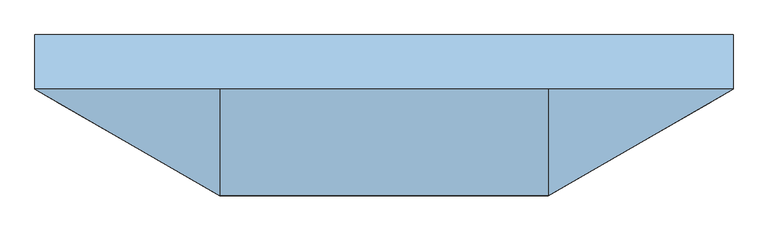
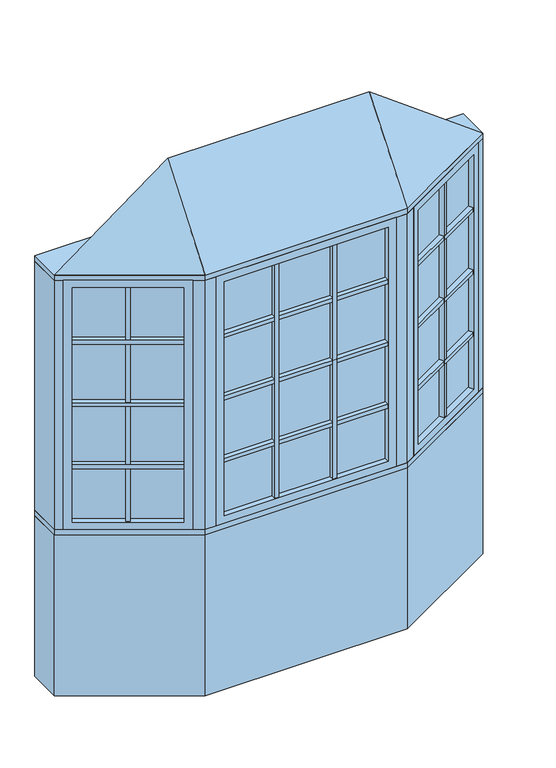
"""IFC4 building model written with IfcOpenShell, lengths in millimetres: window geometry, Pollard_Windows_Tudor Casement Bows and Bays : AML-BAY 30 AFR0612-08-500_GC."""

from ifc_helpers import new_model, si_unit, frame, origin, origin_with_axes, place, context, project, spatial, polyline, outline, extrude, faceted_brep, source, transform, mapped, element, save


def window_d4aee2c4(model_context):
    return source(origin(), model_context, "Body", "SolidModel", [
        extrude(outline(polyline([(532.2305346, -327.3537343), (521.2305346, -308.3011754), (902.1135794, -88.3982469), (913.1135794, -107.4508058), (532.2305346, -327.3537343)])), frame((0.0, 0.0, 1390.998), z_axis=(0.0, 0.0, 1.0), x_axis=(1.0, 0.0, 0.0)), (0.0, 0.0, 1.0), 18.0),
        extrude(outline(polyline([(518.6905346, -303.9017664), (507.6905346, -284.8492075), (888.5735794, -64.946279), (899.5735794, -83.9988379), (518.6905346, -303.9017664)])), frame((0.0, 0.0, 1390.998), z_axis=(0.0, 0.0, 1.0), x_axis=(1.0, 0.0, 0.0)), (0.0, 0.0, 1.0), 18.0),
        extrude(outline(polyline([(532.2305346, -327.3537343), (521.2305346, -308.3011754), (902.1135794, -88.3982469), (913.1135794, -107.4508058), (532.2305346, -327.3537343)])), frame((0.0, 0.0, 1090.998), z_axis=(0.0, 0.0, 1.0), x_axis=(1.0, 0.0, 0.0)), (0.0, 0.0, 1.0), 18.0),
        extrude(outline(polyline([(518.6905346, -303.9017664), (507.6905346, -284.8492075), (888.5735794, -64.946279), (899.5735794, -83.9988379), (518.6905346, -303.9017664)])), frame((0.0, 0.0, 1090.998), z_axis=(0.0, 0.0, 1.0), x_axis=(1.0, 0.0, 0.0)), (0.0, 0.0, 1.0), 18.0),
        extrude(outline(polyline([(532.2305346, -327.3537343), (521.2305346, -308.3011754), (902.1135794, -88.3982469), (913.1135794, -107.4508058), (532.2305346, -327.3537343)])), frame((0.0, 0.0, 1390.998), z_axis=(0.0, 0.0, 1.0), x_axis=(1.0, 0.0, 0.0)), (0.0, 0.0, 1.0), 18.0),
        extrude(outline(polyline([(518.6905346, -303.9017664), (507.6905346, -284.8492075), (888.5735794, -64.946279), (899.5735794, -83.9988379), (518.6905346, -303.9017664)])), frame((0.0, 0.0, 1390.998), z_axis=(0.0, 0.0, 1.0), x_axis=(1.0, 0.0, 0.0)), (0.0, 0.0, 1.0), 18.0),
        extrude(outline(polyline([(532.2305346, -327.3537343), (521.2305346, -308.3011754), (902.1135794, -88.3982469), (913.1135794, -107.4508058), (532.2305346, -327.3537343)])), frame((0.0, 0.0, 1390.998), z_axis=(0.0, 0.0, 1.0), x_axis=(1.0, 0.0, 0.0)), (0.0, 0.0, 1.0), 18.0),
        extrude(outline(polyline([(518.6905346, -303.9017664), (507.6905346, -284.8492075), (888.5735794, -64.946279), (899.5735794, -83.9988379), (518.6905346, -303.9017664)])), frame((0.0, 0.0, 1390.998), z_axis=(0.0, 0.0, 1.0), x_axis=(1.0, 0.0, 0.0)), (0.0, 0.0, 1.0), 18.0),
        extrude(outline(polyline([(532.2305346, -327.3537343), (521.2305346, -308.3011754), (902.1135794, -88.3982469), (913.1135794, -107.4508058), (532.2305346, -327.3537343)])), frame((0.0, 0.0, 1690.998), z_axis=(0.0, 0.0, 1.0), x_axis=(1.0, 0.0, 0.0)), (0.0, 0.0, 1.0), 18.0),
        extrude(outline(polyline([(518.6905346, -303.9017664), (507.6905346, -284.8492075), (888.5735794, -64.946279), (899.5735794, -83.9988379), (518.6905346, -303.9017664)])), frame((0.0, 0.0, 1690.998), z_axis=(0.0, 0.0, 1.0), x_axis=(1.0, 0.0, 0.0)), (0.0, 0.0, 1.0), 18.0),
        extrude(outline(polyline([(719.4662856, -193.8497112), (730.4662856, -212.9022701), (714.8778284, -221.9022701), (703.8778284, -202.8497112), (719.4662856, -193.8497112)])), frame((0.0, 0.0, 835.8628), z_axis=(0.0, 0.0, 1.0), x_axis=(1.0, 0.0, 0.0)), (0.0, 0.0, 1.0), 1128.2704),
        extrude(outline(polyline([(716.9262856, -189.4503021), (701.3378284, -198.4503021), (690.3378284, -179.3977432), (705.9262856, -170.3977432), (716.9262856, -189.4503021)])), frame((0.0, 0.0, 835.8628), z_axis=(0.0, 0.0, 1.0), x_axis=(1.0, 0.0, 0.0)), (0.0, 0.0, 1.0), 1128.2704),
        extrude(outline(polyline([(913.112102, -82.0482469), (510.2320119, -314.6511754), (507.6920119, -310.2517664), (910.572102, -77.6488379), (913.112102, -82.0482469)])), frame((0.0, 0.0, 823.1628), z_axis=(0.0, 0.0, 1.0), x_axis=(1.0, 0.0, 0.0)), (0.0, 0.0, 1.0), 1153.6704),
        faceted_brep([(902.1135794, -88.3982469, 835.8628), (914.8135794, -110.3952922, 835.8628), (914.8135794, -110.3952922, 1964.1332), (902.1135794, -88.3982469, 1964.1332), (910.572102, -77.6488379, 823.1628), (913.112102, -82.0482469, 823.1628), (913.112102, -82.0482469, 1976.8332), (910.572102, -77.6488379, 1976.8332), (886.8735794, -62.0017926, 835.8628), (899.5735794, -83.9988379, 835.8628), (899.5735794, -83.9988379, 1964.1332), (886.8735794, -62.0017926, 1964.1332), (945.8734073, -92.4628922, 799.998), (917.9334073, -44.0693926, 799.998), (917.9334073, -44.0693926, 1999.998), (945.8734073, -92.4628922, 1999.998), (533.9305346, -330.2982207, 1964.1332), (521.2305346, -308.3011754, 1964.1332), (510.2320119, -314.6511754, 1976.8332), (507.6920119, -310.2517664, 1976.8332), (518.6905346, -303.9017664, 1964.1332), (505.9905346, -281.9047211, 1964.1332), (474.9307067, -299.8371211, 1999.998), (502.8707067, -348.2306207, 1999.998), (533.9305346, -330.2982207, 835.8628), (521.2305346, -308.3011754, 835.8628), (510.2320119, -314.6511754, 823.1628), (507.6920119, -310.2517664, 823.1628), (518.6905346, -303.9017664, 835.8628), (505.9905346, -281.9047211, 835.8628), (474.9307067, -299.8371211, 799.998), (502.8707067, -348.2306207, 799.998)], [[[0, 1, 2, 3]], [[4, 5, 6, 7]], [[8, 9, 10, 11]], [[12, 13, 14, 15]], [[3, 2, 16, 17]], [[7, 6, 18, 19]], [[11, 10, 20, 21]], [[15, 14, 22, 23]], [[17, 16, 24, 25]], [[19, 18, 26, 27]], [[21, 20, 28, 29]], [[23, 22, 30, 31]], [[25, 24, 1, 0]], [[5, 26, 18, 6], [3, 17, 25, 0]], [[27, 26, 5, 4]], [[7, 19, 27, 4], [9, 28, 20, 10]], [[29, 28, 9, 8]], [[13, 30, 22, 14], [11, 21, 29, 8]], [[31, 30, 13, 12]], [[15, 23, 31, 12], [1, 24, 16, 2]]]),
        extrude(outline(polyline([(140.8016788, -347.8306207), (140.8016788, -369.8306207), (122.8016788, -369.8306207), (122.8016788, -347.8306207), (140.8016788, -347.8306207)])), frame((0.0, 0.0, 835.8628), z_axis=(0.0, 0.0, 1.0), x_axis=(1.0, 0.0, 0.0)), (0.0, 0.0, 1.0), 1128.2704),
        extrude(outline(polyline([(140.8016788, -342.7506207), (122.8016788, -342.7506207), (122.8016788, -320.7506207), (140.8016788, -320.7506207), (140.8016788, -342.7506207)])), frame((0.0, 0.0, 835.8628), z_axis=(0.0, 0.0, 1.0), x_axis=(1.0, 0.0, 0.0)), (0.0, 0.0, 1.0), 1128.2704),
        extrude(outline(polyline([(-122.8016788, -347.8306207), (-122.8016788, -369.8306207), (-140.8016788, -369.8306207), (-140.8016788, -347.8306207), (-122.8016788, -347.8306207)])), frame((0.0, 0.0, 835.8628), z_axis=(0.0, 0.0, 1.0), x_axis=(1.0, 0.0, 0.0)), (0.0, 0.0, 1.0), 1128.2704),
        extrude(outline(polyline([(-122.8016788, -342.7506207), (-140.8016788, -342.7506207), (-140.8016788, -320.7506207), (-122.8016788, -320.7506207), (-122.8016788, -342.7506207)])), frame((0.0, 0.0, 835.8628), z_axis=(0.0, 0.0, 1.0), x_axis=(1.0, 0.0, 0.0)), (0.0, 0.0, 1.0), 1128.2704),
        extrude(outline(polyline([(-373.7046365, -369.8306207), (-373.7046365, -347.8306207), (373.7046365, -347.8306207), (373.7046365, -369.8306207), (-373.7046365, -369.8306207)])), frame((0.0, 0.0, 1090.998), z_axis=(0.0, 0.0, 1.0), x_axis=(1.0, 0.0, 0.0)), (0.0, 0.0, 1.0), 18.0),
        extrude(outline(polyline([(-373.7046365, -342.7506207), (-373.7046365, -320.7506207), (373.7046365, -320.7506207), (373.7046365, -342.7506207), (-373.7046365, -342.7506207)])), frame((0.0, 0.0, 1090.998), z_axis=(0.0, 0.0, 1.0), x_axis=(1.0, 0.0, 0.0)), (0.0, 0.0, 1.0), 18.0),
        extrude(outline(polyline([(-373.7046365, -369.8306207), (-373.7046365, -347.8306207), (373.7046365, -347.8306207), (373.7046365, -369.8306207), (-373.7046365, -369.8306207)])), frame((0.0, 0.0, 1390.998), z_axis=(0.0, 0.0, 1.0), x_axis=(1.0, 0.0, 0.0)), (0.0, 0.0, 1.0), 18.0),
        extrude(outline(polyline([(-373.7046365, -342.7506207), (-373.7046365, -320.7506207), (373.7046365, -320.7506207), (373.7046365, -342.7506207), (-373.7046365, -342.7506207)])), frame((0.0, 0.0, 1390.998), z_axis=(0.0, 0.0, 1.0), x_axis=(1.0, 0.0, 0.0)), (0.0, 0.0, 1.0), 18.0),
        extrude(outline(polyline([(-373.7046365, -369.8306207), (-373.7046365, -347.8306207), (373.7046365, -347.8306207), (373.7046365, -369.8306207), (-373.7046365, -369.8306207)])), frame((0.0, 0.0, 1390.998), z_axis=(0.0, 0.0, 1.0), x_axis=(1.0, 0.0, 0.0)), (0.0, 0.0, 1.0), 18.0),
        extrude(outline(polyline([(-373.7046365, -342.7506207), (-373.7046365, -320.7506207), (373.7046365, -320.7506207), (373.7046365, -342.7506207), (-373.7046365, -342.7506207)])), frame((0.0, 0.0, 1390.998), z_axis=(0.0, 0.0, 1.0), x_axis=(1.0, 0.0, 0.0)), (0.0, 0.0, 1.0), 18.0),
        extrude(outline(polyline([(-373.7046365, -369.8306207), (-373.7046365, -347.8306207), (373.7046365, -347.8306207), (373.7046365, -369.8306207), (-373.7046365, -369.8306207)])), frame((0.0, 0.0, 1390.998), z_axis=(0.0, 0.0, 1.0), x_axis=(1.0, 0.0, 0.0)), (0.0, 0.0, 1.0), 18.0),
        extrude(outline(polyline([(-373.7046365, -342.7506207), (-373.7046365, -320.7506207), (373.7046365, -320.7506207), (373.7046365, -342.7506207), (-373.7046365, -342.7506207)])), frame((0.0, 0.0, 1390.998), z_axis=(0.0, 0.0, 1.0), x_axis=(1.0, 0.0, 0.0)), (0.0, 0.0, 1.0), 18.0),
        extrude(outline(polyline([(-913.1135794, -107.4508058), (-902.1135794, -88.3982469), (-521.2305346, -308.3011754), (-532.2305346, -327.3537343), (-913.1135794, -107.4508058)])), frame((0.0, 0.0, 1090.998), z_axis=(0.0, 0.0, 1.0), x_axis=(1.0, 0.0, 0.0)), (0.0, 0.0, 1.0), 18.0),
        extrude(outline(polyline([(-899.5735794, -83.9988379), (-888.5735794, -64.946279), (-507.6905346, -284.8492075), (-518.6905346, -303.9017664), (-899.5735794, -83.9988379)])), frame((0.0, 0.0, 1090.998), z_axis=(0.0, 0.0, 1.0), x_axis=(1.0, 0.0, 0.0)), (0.0, 0.0, 1.0), 18.0),
        extrude(outline(polyline([(-913.1135794, -107.4508058), (-902.1135794, -88.3982469), (-521.2305346, -308.3011754), (-532.2305346, -327.3537343), (-913.1135794, -107.4508058)])), frame((0.0, 0.0, 1390.998), z_axis=(0.0, 0.0, 1.0), x_axis=(1.0, 0.0, 0.0)), (0.0, 0.0, 1.0), 18.0),
        extrude(outline(polyline([(-899.5735794, -83.9988379), (-888.5735794, -64.946279), (-507.6905346, -284.8492075), (-518.6905346, -303.9017664), (-899.5735794, -83.9988379)])), frame((0.0, 0.0, 1390.998), z_axis=(0.0, 0.0, 1.0), x_axis=(1.0, 0.0, 0.0)), (0.0, 0.0, 1.0), 18.0),
        extrude(outline(polyline([(-913.1135794, -107.4508058), (-902.1135794, -88.3982469), (-521.2305346, -308.3011754), (-532.2305346, -327.3537343), (-913.1135794, -107.4508058)])), frame((0.0, 0.0, 1390.998), z_axis=(0.0, 0.0, 1.0), x_axis=(1.0, 0.0, 0.0)), (0.0, 0.0, 1.0), 18.0),
        extrude(outline(polyline([(-899.5735794, -83.9988379), (-888.5735794, -64.946279), (-507.6905346, -284.8492075), (-518.6905346, -303.9017664), (-899.5735794, -83.9988379)])), frame((0.0, 0.0, 1390.998), z_axis=(0.0, 0.0, 1.0), x_axis=(1.0, 0.0, 0.0)), (0.0, 0.0, 1.0), 18.0),
        extrude(outline(polyline([(-913.1135794, -107.4508058), (-902.1135794, -88.3982469), (-521.2305346, -308.3011754), (-532.2305346, -327.3537343), (-913.1135794, -107.4508058)])), frame((0.0, 0.0, 1390.998), z_axis=(0.0, 0.0, 1.0), x_axis=(1.0, 0.0, 0.0)), (0.0, 0.0, 1.0), 18.0),
        extrude(outline(polyline([(-899.5735794, -83.9988379), (-888.5735794, -64.946279), (-507.6905346, -284.8492075), (-518.6905346, -303.9017664), (-899.5735794, -83.9988379)])), frame((0.0, 0.0, 1390.998), z_axis=(0.0, 0.0, 1.0), x_axis=(1.0, 0.0, 0.0)), (0.0, 0.0, 1.0), 18.0),
        extrude(outline(polyline([(-913.1135794, -107.4508058), (-902.1135794, -88.3982469), (-521.2305346, -308.3011754), (-532.2305346, -327.3537343), (-913.1135794, -107.4508058)])), frame((0.0, 0.0, 1690.998), z_axis=(0.0, 0.0, 1.0), x_axis=(1.0, 0.0, 0.0)), (0.0, 0.0, 1.0), 18.0),
        extrude(outline(polyline([(-899.5735794, -83.9988379), (-888.5735794, -64.946279), (-507.6905346, -284.8492075), (-518.6905346, -303.9017664), (-899.5735794, -83.9988379)])), frame((0.0, 0.0, 1690.998), z_axis=(0.0, 0.0, 1.0), x_axis=(1.0, 0.0, 0.0)), (0.0, 0.0, 1.0), 18.0),
        extrude(outline(polyline([(-373.7046365, -369.8306207), (-373.7046365, -347.8306207), (373.7046365, -347.8306207), (373.7046365, -369.8306207), (-373.7046365, -369.8306207)])), frame((0.0, 0.0, 1690.998), z_axis=(0.0, 0.0, 1.0), x_axis=(1.0, 0.0, 0.0)), (0.0, 0.0, 1.0), 18.0),
        extrude(outline(polyline([(-373.7046365, -342.7506207), (-373.7046365, -320.7506207), (373.7046365, -320.7506207), (373.7046365, -342.7506207), (-373.7046365, -342.7506207)])), frame((0.0, 0.0, 1690.998), z_axis=(0.0, 0.0, 1.0), x_axis=(1.0, 0.0, 0.0)), (0.0, 0.0, 1.0), 18.0),
        extrude(outline(polyline([(-703.8778284, -202.8497112), (-714.8778284, -221.9022701), (-730.4662856, -212.9022701), (-719.4662856, -193.8497112), (-703.8778284, -202.8497112)])), frame((0.0, 0.0, 835.8628), z_axis=(0.0, 0.0, 1.0), x_axis=(1.0, 0.0, 0.0)), (0.0, 0.0, 1.0), 1128.2704),
        extrude(outline(polyline([(-701.3378284, -198.4503021), (-716.9262856, -189.4503021), (-705.9262856, -170.3977432), (-690.3378284, -179.3977432), (-701.3378284, -198.4503021)])), frame((0.0, 0.0, 835.8628), z_axis=(0.0, 0.0, 1.0), x_axis=(1.0, 0.0, 0.0)), (0.0, 0.0, 1.0), 1128.2704),
        extrude(outline(polyline([(-510.2320119, -314.6511754), (-913.112102, -82.0482469), (-910.572102, -77.6488379), (-507.6920119, -310.2517664), (-510.2320119, -314.6511754)])), frame((0.0, 0.0, 823.1628), z_axis=(0.0, 0.0, 1.0), x_axis=(1.0, 0.0, 0.0)), (0.0, 0.0, 1.0), 1153.6704),
        faceted_brep([(-518.6905346, -303.9017664, 1964.1332), (-505.9905346, -281.9047211, 1964.1332), (-505.9905346, -281.9047211, 835.8628), (-518.6905346, -303.9017664, 835.8628), (-510.2320119, -314.6511754, 1976.8332), (-507.6920119, -310.2517664, 1976.8332), (-507.6920119, -310.2517664, 823.1628), (-510.2320119, -314.6511754, 823.1628), (-533.9305346, -330.2982207, 1964.1332), (-521.2305346, -308.3011754, 1964.1332), (-521.2305346, -308.3011754, 835.8628), (-533.9305346, -330.2982207, 835.8628), (-474.9307067, -299.8371211, 1999.998), (-502.8707067, -348.2306207, 1999.998), (-502.8707067, -348.2306207, 799.998), (-474.9307067, -299.8371211, 799.998), (-886.8735794, -62.0017926, 835.8628), (-899.5735794, -83.9988379, 835.8628), (-910.572102, -77.6488379, 823.1628), (-913.112102, -82.0482469, 823.1628), (-902.1135794, -88.3982469, 835.8628), (-914.8135794, -110.3952922, 835.8628), (-945.8734073, -92.4628922, 799.998), (-917.9334073, -44.0693926, 799.998), (-886.8735794, -62.0017926, 1964.1332), (-899.5735794, -83.9988379, 1964.1332), (-910.572102, -77.6488379, 1976.8332), (-913.112102, -82.0482469, 1976.8332), (-902.1135794, -88.3982469, 1964.1332), (-914.8135794, -110.3952922, 1964.1332), (-945.8734073, -92.4628922, 1999.998), (-917.9334073, -44.0693926, 1999.998)], [[[0, 1, 2, 3]], [[4, 5, 6, 7]], [[8, 9, 10, 11]], [[12, 13, 14, 15]], [[3, 2, 16, 17]], [[7, 6, 18, 19]], [[11, 10, 20, 21]], [[15, 14, 22, 23]], [[17, 16, 24, 25]], [[19, 18, 26, 27]], [[21, 20, 28, 29]], [[23, 22, 30, 31]], [[15, 23, 31, 12], [1, 24, 16, 2]], [[25, 24, 1, 0]], [[5, 26, 18, 6], [3, 17, 25, 0]], [[27, 26, 5, 4]], [[7, 19, 27, 4], [9, 28, 20, 10]], [[29, 28, 9, 8]], [[13, 30, 22, 14], [11, 21, 29, 8]], [[31, 30, 13, 12]]]),
        extrude(outline(polyline([(386.4046365, -347.8306207), (-386.4046365, -347.8306207), (-386.4046365, -342.7506207), (386.4046365, -342.7506207), (386.4046365, -347.8306207)])), frame((0.0, 0.0, 823.1628), z_axis=(0.0, 0.0, 1.0), x_axis=(1.0, 0.0, 0.0)), (0.0, 0.0, 1.0), 1153.6704),
        faceted_brep([(373.7046365, -347.8306207, 835.8628), (373.7046365, -373.2306207, 835.8628), (373.7046365, -373.2306207, 1964.1332), (373.7046365, -347.8306207, 1964.1332), (386.4046365, -342.7506207, 823.1628), (386.4046365, -347.8306207, 823.1628), (386.4046365, -347.8306207, 1976.8332), (386.4046365, -342.7506207, 1976.8332), (373.7046365, -317.3506207, 835.8628), (373.7046365, -342.7506207, 835.8628), (373.7046365, -342.7506207, 1964.1332), (373.7046365, -317.3506207, 1964.1332), (409.5694365, -373.2306207, 799.998), (409.5694365, -317.3506207, 799.998), (409.5694365, -317.3506207, 1999.998), (409.5694365, -373.2306207, 1999.998), (-373.7046365, -373.2306207, 1964.1332), (-373.7046365, -347.8306207, 1964.1332), (-386.4046365, -347.8306207, 1976.8332), (-386.4046365, -342.7506207, 1976.8332), (-373.7046365, -342.7506207, 1964.1332), (-373.7046365, -317.3506207, 1964.1332), (-409.5694365, -317.3506207, 1999.998), (-409.5694365, -373.2306207, 1999.998), (-373.7046365, -373.2306207, 835.8628), (-373.7046365, -347.8306207, 835.8628), (-386.4046365, -347.8306207, 823.1628), (-386.4046365, -342.7506207, 823.1628), (-373.7046365, -342.7506207, 835.8628), (-373.7046365, -317.3506207, 835.8628), (-409.5694365, -317.3506207, 799.998), (-409.5694365, -373.2306207, 799.998)], [[[0, 1, 2, 3]], [[4, 5, 6, 7]], [[8, 9, 10, 11]], [[12, 13, 14, 15]], [[3, 2, 16, 17]], [[7, 6, 18, 19]], [[11, 10, 20, 21]], [[15, 14, 22, 23]], [[17, 16, 24, 25]], [[19, 18, 26, 27]], [[21, 20, 28, 29]], [[23, 22, 30, 31]], [[15, 23, 31, 12], [1, 24, 16, 2]], [[25, 24, 1, 0]], [[5, 26, 18, 6], [3, 17, 25, 0]], [[27, 26, 5, 4]], [[7, 19, 27, 4], [9, 28, 20, 10]], [[29, 28, 9, 8]], [[13, 30, 22, 14], [11, 21, 29, 8]], [[31, 30, 13, 12]]]),
        faceted_brep([(976.5, -74.7806207, 2025.398), (459.5694365, -373.2306207, 2025.398), (-459.5694365, -373.2306207, 2025.398), (-976.5, -74.7806207, 2025.398), (-459.5694365, -74.7806207, 2406.398), (459.5694365, -74.7806207, 2406.398)], [[[0, 1, 2, 3]], [[3, 2, 4]], [[2, 1, 5, 4]], [[1, 0, 5]], [[0, 3, 4, 5]]]),
        extrude(outline(polyline([(-976.5, 77.6193793), (976.5, 77.6193793), (976.5, -74.7806207), (459.5694365, -373.2306207), (-459.5694365, -373.2306207), (-976.5, -74.7806207), (-976.5, 77.6193793)])), frame((0.0, 0.0, 1999.998), z_axis=(0.0, 0.0, 1.0), x_axis=(1.0, 0.0, 0.0)), (0.0, 0.0, 1.0), 25.4),
        extrude(outline(polyline([(-976.5, -74.7806207), (-976.5, 77.6193793), (-935.6645431, 77.6193793), (-935.6645431, -74.7806207), (-945.8734073, -92.4628922), (-976.5, -74.7806207)])), frame((0.0, 0.0, 799.998), z_axis=(0.0, 0.0, 1.0), x_axis=(1.0, 0.0, 0.0)), (0.0, 0.0, 1.0), 1200.0),
        extrude(outline(polyline([(976.5, 77.6193793), (976.5, -74.7806207), (945.8734073, -92.4628922), (935.6645431, -74.7806207), (935.6645431, 77.6193793), (976.5, 77.6193793)])), frame((0.0, 0.0, 799.998), z_axis=(0.0, 0.0, 1.0), x_axis=(1.0, 0.0, 0.0)), (0.0, 0.0, 1.0), 1200.0),
        extrude(outline(polyline([(459.5694365, -373.2306207), (409.5694365, -373.2306207), (409.5694365, -323.2306207), (446.1719769, -323.2306207), (477.8707067, -304.9293505), (502.8707067, -348.2306207), (459.5694365, -373.2306207)])), frame((0.0, 0.0, 799.998), z_axis=(0.0, 0.0, 1.0), x_axis=(1.0, 0.0, 0.0)), (0.0, 0.0, 1.0), 1200.0),
        extrude(outline(polyline([(-459.5694365, -373.2306207), (-502.8707067, -348.2306207), (-477.8707067, -304.9293505), (-446.1719769, -323.2306207), (-409.5694365, -323.2306207), (-409.5694365, -373.2306207), (-459.5694365, -373.2306207)])), frame((0.0, 0.0, 799.998), z_axis=(0.0, 0.0, 1.0), x_axis=(1.0, 0.0, 0.0)), (0.0, 0.0, 1.0), 1200.0),
        extrude(outline(polyline([(-459.5694365, -373.2306207), (-976.5, -74.7806207), (-976.5, 77.6193793), (-935.6645431, 77.6193793), (-418.7339796, -220.8306207), (418.7339796, -220.8306207), (935.6645431, 77.6193793), (976.5, 77.6193793), (976.5, -74.7806207), (459.5694365, -373.2306207), (-459.5694365, -373.2306207)])), frame((0.0, 0.0, 774.598), z_axis=(0.0, 0.0, 1.0), x_axis=(1.0, 0.0, 0.0)), (0.0, 0.0, 1.0), 25.4),
        extrude(outline(polyline([(-976.5, -74.7806207), (-976.5, 77.6193793), (-935.6645431, 77.6193793), (-418.7339796, -220.8306207), (418.7339796, -220.8306207), (935.6645431, 77.6193793), (976.5, 77.6193793), (976.5, -74.7806207), (459.5694365, -373.2306207), (-459.5694365, -373.2306207), (-976.5, -74.7806207)])), origin_with_axes(), (0.0, 0.0, 1.0), 774.598),
    ])


if __name__ == "__main__":
    model = new_model("IFC4")
    model_context = context("Model", 3, world=origin())
    ifc_project = project(units=[si_unit("LENGTHUNIT", "METRE", prefix="MILLI")], contexts=[model_context])
    site = spatial("IfcSite", under=ifc_project)
    building = spatial("IfcBuilding", under=site)
    placement = place(None, origin())
    window_shape = window_d4aee2c4(model_context)
    element("IfcWindow", 1, ObjectType="Pollard_Windows_Tudor Casement Bows and Bays : AML-BAY 30 AFR0612-08-500_GC", at=placement, inside=building, context=model_context, shape_type="MappedRepresentation", body=[
        mapped(window_shape, transform((0.0, 0.0, 0.0), x_axis=(1.0, 0.0, 0.0), y_axis=(0.0, 1.0, 0.0), z_axis=(0.0, 0.0, 1.0))),
    ])
    save(model, "model.ifc")
